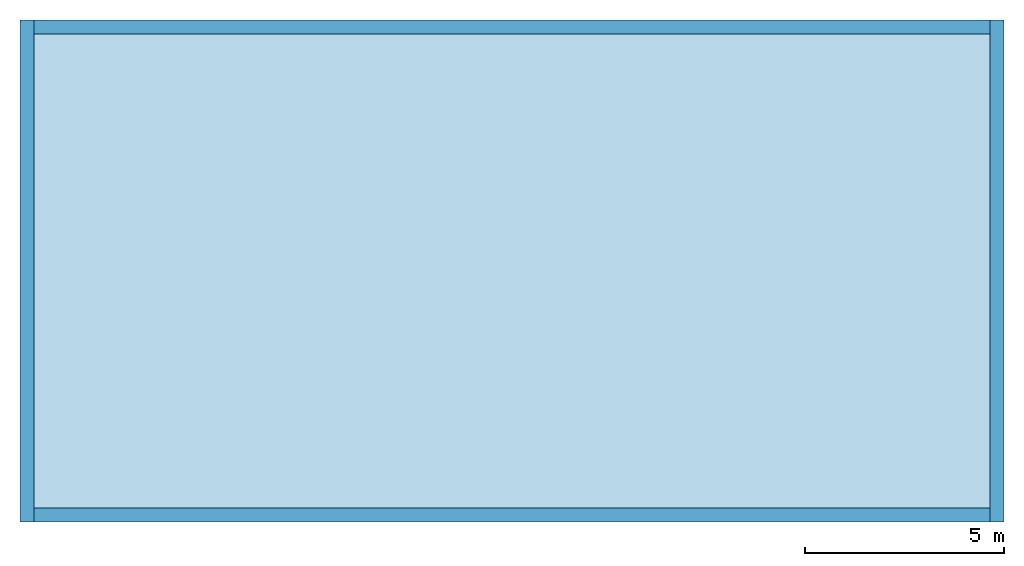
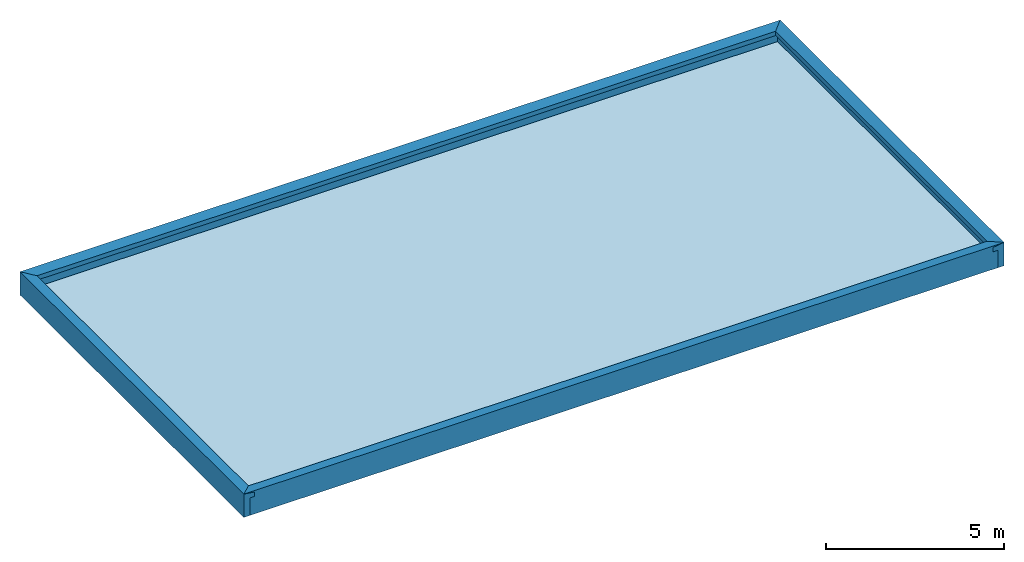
# One storey: 4 walls, 1 slab.
"""IFC2X3 building model written with IfcOpenShell, lengths in millimetres."""

from ifc_helpers import new_model, entity, si_unit, converted_unit, direction, frame, origin_with_axes, place, context, project, spatial, polyline, outline, extrude, material, layer, layer_set, layer_usage, element, save


model = new_model("IFC2X3")

# Units and contexts
model_context = context("Model", 3, precision=1e-05, world=origin_with_axes(), true_north=direction((6.123234e-17, 1.0)))
plan_context = context("Plan", 3, precision=1e-05, world=origin_with_axes(), true_north=direction((6.123234e-17, 1.0)))
ifc_project = project(units=[si_unit("LENGTHUNIT", "METRE", prefix="MILLI"), si_unit("AREAUNIT", "SQUARE_METRE"), si_unit("VOLUMEUNIT", "CUBIC_METRE"), converted_unit("PLANEANGLEUNIT", "DEGREE", entity("IfcPlaneAngleMeasure", 0.017453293), si_unit("PLANEANGLEUNIT", "RADIAN"), dimensions=[0, 0, 0, 0, 0, 0, 0]), si_unit("SOLIDANGLEUNIT", "STERADIAN"), si_unit("MASSUNIT", "GRAM"), si_unit("TIMEUNIT", "SECOND"), si_unit("THERMODYNAMICTEMPERATUREUNIT", "DEGREE_CELSIUS"), si_unit("LUMINOUSINTENSITYUNIT", "LUMEN")], contexts=[model_context, plan_context])

# Site, building, storey
site_placement = place(None, origin_with_axes())
site = spatial("IfcSite", under=ifc_project, at=site_placement, Name="\x8aO\x8d\\", CompositionType="ELEMENT")
building_placement = place(site_placement, origin_with_axes())
building = spatial("IfcBuilding", under=site, at=building_placement, Name="20101105_ArchCADMagic_002", CompositionType="ELEMENT")
storey_placement = place(building_placement, frame((0.0, 0.0, 9450.0), z_axis=(0.0, 0.0, 1.0), x_axis=(1.0, 0.0, 0.0)))
storey = spatial("IfcBuildingStorey", under=building, at=storey_placement, CompositionType="ELEMENT", Elevation=9450.0)

# Slab
ifc_material = material(Name="\x83R\x83\x93\x83N\x83\x8a\x81[\x83g-\x8d\\\x91¢2")
ifc_layer = layer(ifc_material, 250.0, ventilated="UNKNOWN")
ifc_layer_set = layer_set([ifc_layer], Name="\x83R\x83\x93\x83N\x83\x8a\x81[\x83g-\x8d\\\x91¢2 250")
ifc_layer_usage = layer_usage(ifc_layer_set, "AXIS3", "NEGATIVE", 250.0)
slab_placement = place(storey_placement, frame((-350.0, 12350.0, 0.0), z_axis=(0.0, 0.0, 1.0), x_axis=(1.0, 0.0, 0.0)))
element("IfcSlab", 1, at=slab_placement, inside=storey, material=ifc_layer_usage, Name="S9", PredefinedType="FLOOR", context=model_context, shape_type="SweptSolid", body=[
    extrude(outline(polyline([(0.0, 0.0), (24700.0, 0.0), (24700.0, -12600.0), (0.0, -12600.0), (0.0, 0.0)])), origin_with_axes(), (0.0, 0.0, 1.0), 250.0),
])

# Walls
for number, where, z_axis, x_axis, name in (
    (2, (24350.0, -250.0, 0.0), (0.0, 0.0, 1.0), (0.0, 1.0, 0.0), "W8"),
    (3, (-350.0, 12350.0, 0.0), (0.0, 0.0, 1.0), (0.0, -1.0, 0.0), "W6"),
):
    element("IfcWall", number, at=place(storey_placement, frame(where, z_axis=z_axis, x_axis=x_axis)), inside=storey, material=ifc_material, Name=name, context=model_context, shape_type="SweptSolid", body=[
        extrude(outline(polyline([(200.0, 0.0), (0.0, 0.0), (0.0, 800.0), (200.0, 771.42857), (350.0, 750.0), (350.0, 600.0), (200.0, 600.0), (200.0, 0.0)])), frame((0.0, 0.0, 0.0), z_axis=(1.0, 0.0, 0.0), x_axis=(0.0, 1.0, 0.0)), (0.0, 0.0, 1.0), 12600.0),
    ])
for number, where, z_axis, x_axis, name in (
    (4, (-350.0, -250.0, 0.0), (0.0, 0.0, 1.0), (1.0, 0.0, 0.0), "W7"),
    (5, (24350.0, 12350.0, 0.0), (0.0, 0.0, 1.0), (-1.0, 0.0, 0.0), "W9"),
):
    element("IfcWall", number, at=place(storey_placement, frame(where, z_axis=z_axis, x_axis=x_axis)), inside=storey, material=ifc_material, Name=name, context=model_context, shape_type="SweptSolid", body=[
        extrude(outline(polyline([(200.0, 0.0), (0.0, 0.0), (0.0, 800.0), (200.0, 771.42857), (350.0, 750.0), (350.0, 600.0), (200.0, 600.0), (200.0, 0.0)])), frame((0.0, 0.0, 0.0), z_axis=(1.0, 0.0, 0.0), x_axis=(0.0, 1.0, 0.0)), (0.0, 0.0, 1.0), 24700.0),
    ])

save(model, "model.ifc")
